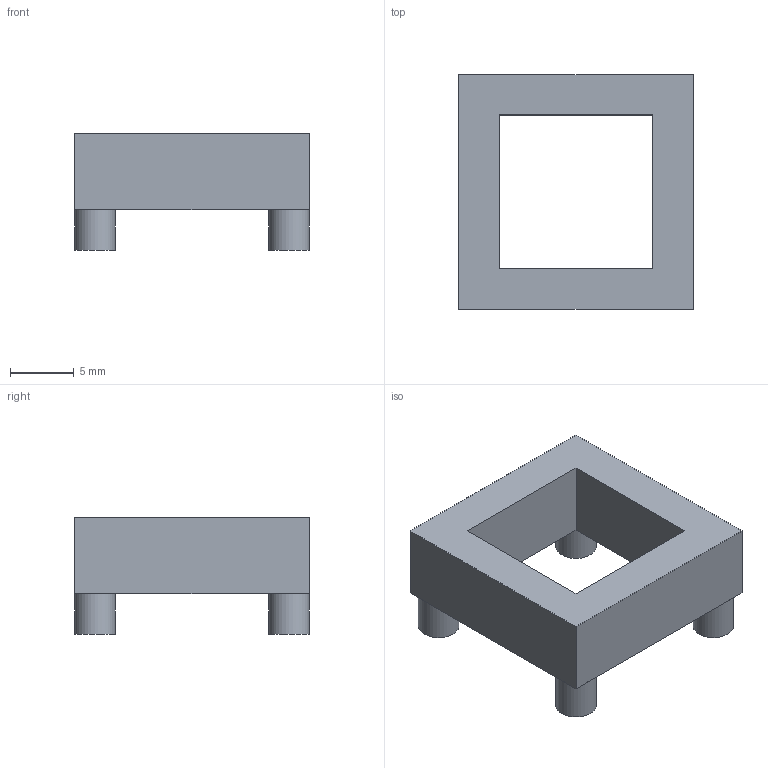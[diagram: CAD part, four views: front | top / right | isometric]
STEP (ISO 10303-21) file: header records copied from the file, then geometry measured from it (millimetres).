
FILE_DESCRIPTION(/* description */ ('Alibre Inc.'),/* implementation_level */ '2;1');
FILE_NAME(/* name */ 'export0',/* time_stamp */ '2014-01-01T19:54:42-05:00',/* author */ (''),/* organization */ (''),/* preprocessor_version */ 'ST-DEVELOPER v14',/* originating_system */ 'Alibre',/* authorisation */ '');
FILE_SCHEMA (('CONFIG_CONTROL_DESIGN'));
Length unit declared in the file: centimetre
Products named in the file (1): ID_1
Bounding box: 18.41 x 18.41 x 9.14 mm (x, y, z)
Volume: 1255.8 mm3; surface area: 1241.5 mm2
Topology: 1 solids, 1 shells, 22 faces, 50 edges, 30 vertices
Faces by surface type: plane 18, cylinder 4
Full cylindrical faces by diameter (mm): 3.175 x4
Entity records: 591 total; most frequent: ORIENTED_EDGE 88, CARTESIAN_POINT 82, DIRECTION 70, EDGE_CURVE 44, AXIS2_PLACEMENT_3D 30, VERTEX_POINT 28, EDGE_LOOP 28, FACE_BOUND 28
